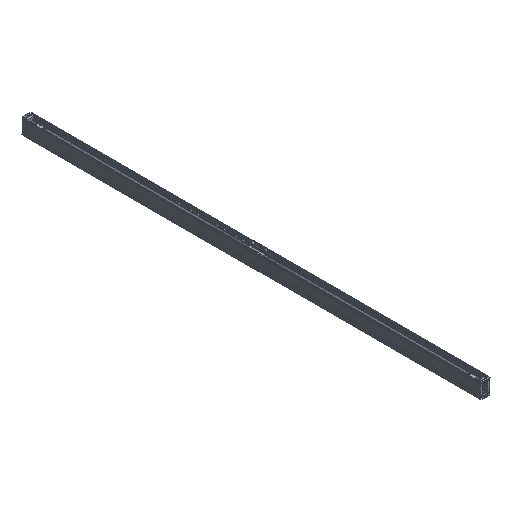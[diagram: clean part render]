
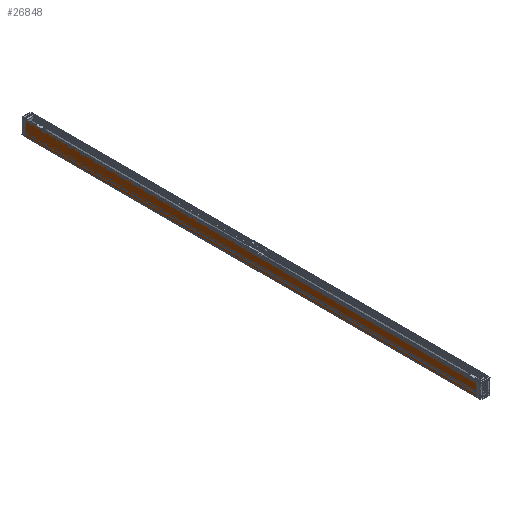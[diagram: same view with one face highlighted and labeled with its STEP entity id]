
A CAD part, isometric view. The second image highlights one B-rep face of the part: STEP entity #26848.
In plain terms, the highlighted planar face has unit normal (-1, 0, 0).
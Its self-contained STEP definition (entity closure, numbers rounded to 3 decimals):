
#349 = ORIENTED_EDGE ( 'NONE', *, *, #25367, .F. ) ;
#826 = EDGE_LOOP ( 'NONE', ( #26278, #349, #16486, #5562 ) ) ;
#1251 = DIRECTION ( 'NONE',  ( 0., 0., 1. ) ) ;
#2412 = CARTESIAN_POINT ( 'NONE',  ( 3309., -6304., 442.646 ) ) ;
#3641 = LINE ( 'NONE', #23014, #27140 ) ;
#3910 = VECTOR ( 'NONE', #8509, 1000. ) ;
#5562 = ORIENTED_EDGE ( 'NONE', *, *, #31264, .T. ) ;
#5767 = VERTEX_POINT ( 'NONE', #2412 ) ;
#6221 = CARTESIAN_POINT ( 'NONE',  ( 3309., -3608., 438.784 ) ) ;
#7909 = DIRECTION ( 'NONE',  ( -1., 0., 0. ) ) ;
#7925 = EDGE_CURVE ( 'NONE', #21460, #13799, #23696, .T. ) ;
#8353 = CARTESIAN_POINT ( 'NONE',  ( 3309., -6304., 438.784 ) ) ;
#8509 = DIRECTION ( 'NONE',  ( 0., 0., 1. ) ) ;
#11151 = CARTESIAN_POINT ( 'NONE',  ( 3309., -3608., 358.646 ) ) ;
#11960 = DIRECTION ( 'NONE',  ( 0., 1., 0. ) ) ;
#12473 = CARTESIAN_POINT ( 'NONE',  ( 3309., -3608., 442.646 ) ) ;
#13799 = VERTEX_POINT ( 'NONE', #12473 ) ;
#15412 = EDGE_CURVE ( 'NONE', #27390, #5767, #23265, .T. ) ;
#16486 = ORIENTED_EDGE ( 'NONE', *, *, #15412, .T. ) ;
#16518 = AXIS2_PLACEMENT_3D ( 'NONE', #29722, #7909, #27460 ) ;
#16775 = CARTESIAN_POINT ( 'NONE',  ( 3309., -6304., 358.646 ) ) ;
#18166 = FACE_OUTER_BOUND ( 'NONE', #826, .T. ) ;
#19923 = PLANE ( 'NONE',  #16518 ) ;
#20707 = VECTOR ( 'NONE', #11960, 1000. ) ;
#21460 = VERTEX_POINT ( 'NONE', #11151 ) ;
#23014 = CARTESIAN_POINT ( 'NONE',  ( 3309., -6304., 442.646 ) ) ;
#23265 = LINE ( 'NONE', #8353, #3910 ) ;
#23685 = LINE ( 'NONE', #16775, #20707 ) ;
#23696 = LINE ( 'NONE', #6221, #29076 ) ;
#23852 = CARTESIAN_POINT ( 'NONE',  ( 3309., -6304., 358.646 ) ) ;
#25266 = DIRECTION ( 'NONE',  ( 0., 1., 0. ) ) ;
#25367 = EDGE_CURVE ( 'NONE', #27390, #21460, #23685, .T. ) ;
#26278 = ORIENTED_EDGE ( 'NONE', *, *, #7925, .F. ) ;
#26848 = ADVANCED_FACE ( 'NONE', ( #18166 ), #19923, .T. ) ;
#27140 = VECTOR ( 'NONE', #25266, 1000. ) ;
#27390 = VERTEX_POINT ( 'NONE', #23852 ) ;
#27460 = DIRECTION ( 'NONE',  ( 0., 0., 1. ) ) ;
#29076 = VECTOR ( 'NONE', #1251, 1000. ) ;
#29722 = CARTESIAN_POINT ( 'NONE',  ( 3309., -6304., 438.784 ) ) ;
#31264 = EDGE_CURVE ( 'NONE', #5767, #13799, #3641, .T. ) ;
